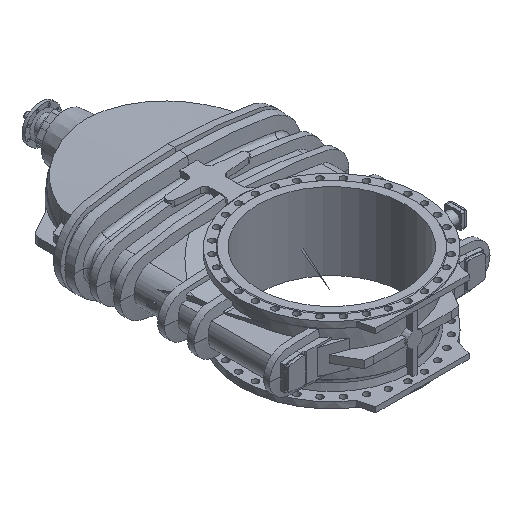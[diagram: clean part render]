
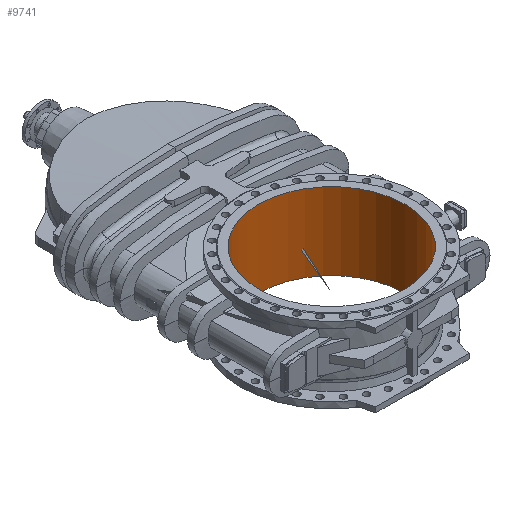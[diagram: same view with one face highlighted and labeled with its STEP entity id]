
A CAD part, isometric view. The second image highlights one B-rep face of the part: STEP entity #9741.
In plain terms, the highlighted cylindrical face has radius 600 mm (diameter 1200 mm), a full revolution.
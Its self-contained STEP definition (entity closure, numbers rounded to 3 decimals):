
#3005 = EDGE_LOOP ( 'NONE', ( #23486 ) ) ;
#5379 = DIRECTION ( 'NONE',  ( 0., 0., 1. ) ) ;
#5920 = CARTESIAN_POINT ( 'NONE',  ( 0., -17.5, 315. ) ) ;
#6391 = DIRECTION ( 'NONE',  ( 0., 0., -1. ) ) ;
#7015 = CARTESIAN_POINT ( 'NONE',  ( 0., -17.5, -745.847 ) ) ;
#7082 = ORIENTED_EDGE ( 'NONE', *, *, #29650, .T. ) ;
#9741 = ADVANCED_FACE ( 'NONE', ( #49138, #36037 ), #32459, .F. ) ;
#14619 = CARTESIAN_POINT ( 'NONE',  ( 0., -17.5, -315. ) ) ;
#16610 = VERTEX_POINT ( 'NONE', #50531 ) ;
#17566 = AXIS2_PLACEMENT_3D ( 'NONE', #7015, #48872, #53504 ) ;
#22081 = DIRECTION ( 'NONE',  ( 1., 0., 0. ) ) ;
#22207 = CIRCLE ( 'NONE', #36162, 600. ) ;
#22361 = VERTEX_POINT ( 'NONE', #51890 ) ;
#23313 = EDGE_LOOP ( 'NONE', ( #7082 ) ) ;
#23486 = ORIENTED_EDGE ( 'NONE', *, *, #34905, .T. ) ;
#29650 = EDGE_CURVE ( 'NONE', #16610, #16610, #22207, .T. ) ;
#32459 = CYLINDRICAL_SURFACE ( 'NONE', #17566, 600. ) ;
#32834 = AXIS2_PLACEMENT_3D ( 'NONE', #14619, #6391, #39791 ) ;
#34905 = EDGE_CURVE ( 'NONE', #22361, #22361, #45051, .T. ) ;
#36037 = FACE_OUTER_BOUND ( 'NONE', #23313, .T. ) ;
#36162 = AXIS2_PLACEMENT_3D ( 'NONE', #5920, #5379, #22081 ) ;
#39791 = DIRECTION ( 'NONE',  ( -1., 0., 0. ) ) ;
#45051 = CIRCLE ( 'NONE', #32834, 600. ) ;
#48872 = DIRECTION ( 'NONE',  ( 0., 0., 1. ) ) ;
#49138 = FACE_OUTER_BOUND ( 'NONE', #3005, .T. ) ;
#50531 = CARTESIAN_POINT ( 'NONE',  ( 600., -17.5, 315. ) ) ;
#51890 = CARTESIAN_POINT ( 'NONE',  ( -600., -17.5, -315. ) ) ;
#53504 = DIRECTION ( 'NONE',  ( 1., 0., 0. ) ) ;
